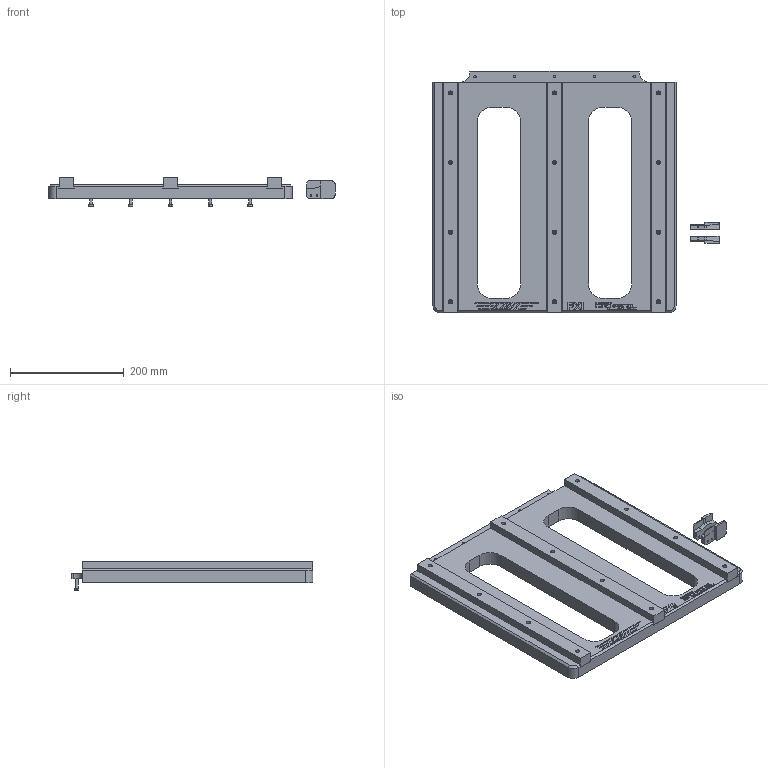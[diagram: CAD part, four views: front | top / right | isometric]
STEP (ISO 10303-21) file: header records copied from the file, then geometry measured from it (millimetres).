
FILE_DESCRIPTION((''),'2;1');
FILE_NAME('C:\copy my documents\Inventor\web site project\Receiver Accessories\561922-CU.stp','2013-03-26T13:46:01',('davecooper'),(''),'Autodesk Inventor 2011','Autodesk Inventor 2011','');
FILE_SCHEMA(('CONFIG_CONTROL_DESIGN'));
Length unit declared in the file: inch
Products named in the file (8): 561922-CU; 561922; 5516544; 5516552; 632L45; 1032N45; 5516559; 5516560
Assembly tree (24 placements, depth 3):
  561922-CU
    561922
      5516544
      5516552  x3
      632L45  x12
    1032N45  x5
    5516559
    5516560
Bounding box: 502.09 x 423.86 x 51.9 mm (x, y, z)
Volume: 3510902 mm3; surface area: 482412.5 mm2
Topology: 23 solids, 23 shells, 1367 faces, 3608 edges, 2394 vertices
Faces by surface type: plane 770, bspline 419, cylinder 125, cone 53
Full cylindrical faces by diameter (mm): 2.322 x7, 2.642 x16, 3.505 x12, 3.81 x12, 3.962 x5, 4.826 x5, 5.74 x12, 7.137 x12, 7.925 x5
Entity records: 34942 total; most frequent: CARTESIAN_POINT 10599, ORIENTED_EDGE 5494, DIRECTION 3349, EDGE_CURVE 2747, VERTEX_POINT 1858, VECTOR 1709, LINE 1709, EDGE_LOOP 1215
